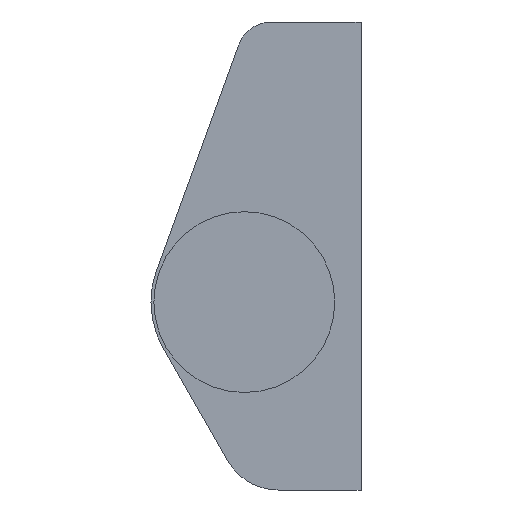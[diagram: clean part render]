
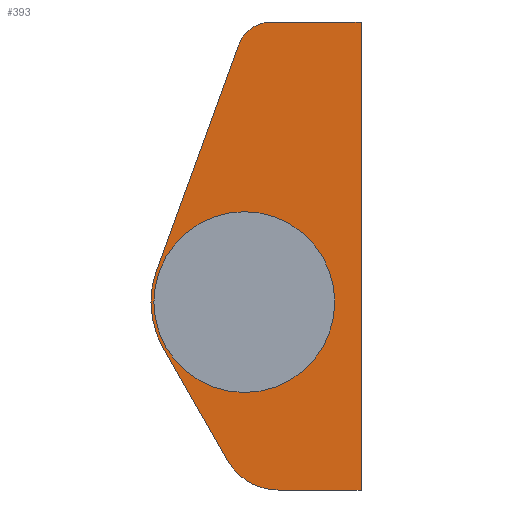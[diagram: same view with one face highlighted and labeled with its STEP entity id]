
A CAD part, front view. The second image highlights one B-rep face of the part: STEP entity #393.
In plain terms, the highlighted planar face has unit normal (0, -1, 0).
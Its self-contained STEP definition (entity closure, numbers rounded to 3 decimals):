
#21 = FACE_BOUND ( 'NONE', #131, .T. ) ;
#26 = FACE_OUTER_BOUND ( 'NONE', #119, .T. ) ;
#72 = ORIENTED_EDGE ( 'NONE', *, *, #495, .F. ) ;
#73 = ORIENTED_EDGE ( 'NONE', *, *, #470, .F. ) ;
#74 = ORIENTED_EDGE ( 'NONE', *, *, #464, .F. ) ;
#75 = ORIENTED_EDGE ( 'NONE', *, *, #417, .F. ) ;
#76 = ORIENTED_EDGE ( 'NONE', *, *, #488, .F. ) ;
#77 = ORIENTED_EDGE ( 'NONE', *, *, #448, .F. ) ;
#78 = ORIENTED_EDGE ( 'NONE', *, *, #472, .F. ) ;
#79 = ORIENTED_EDGE ( 'NONE', *, *, #447, .F. ) ;
#80 = ORIENTED_EDGE ( 'NONE', *, *, #438, .F. ) ;
#81 = ORIENTED_EDGE ( 'NONE', *, *, #460, .T. ) ;
#82 = ORIENTED_EDGE ( 'NONE', *, *, #475, .T. ) ;
#119 = EDGE_LOOP ( 'NONE', ( #72, #73, #74, #75, #76, #77, #78, #79, #80 ) ) ;
#131 = EDGE_LOOP ( 'NONE', ( #81, #82 ) ) ;
#137 = CIRCLE ( 'NONE', #437, 3. ) ;
#151 = LINE ( 'NONE', #385, #169 ) ;
#156 = CIRCLE ( 'NONE', #479, 5. ) ;
#157 = LINE ( 'NONE', #358, #158 ) ;
#158 = VECTOR ( 'NONE', #359, 1000. ) ;
#161 = CIRCLE ( 'NONE', #434, 8. ) ;
#162 = LINE ( 'NONE', #377, #172 ) ;
#169 = VECTOR ( 'NONE', #386, 1000. ) ;
#171 = CIRCLE ( 'NONE', #444, 6. ) ;
#172 = VECTOR ( 'NONE', #381, 1000. ) ;
#179 = CIRCLE ( 'NONE', #486, 8. ) ;
#181 = CIRCLE ( 'NONE', #480, 6. ) ;
#186 = LINE ( 'NONE', #507, #187 ) ;
#187 = VECTOR ( 'NONE', #508, 1000. ) ;
#189 = LINE ( 'NONE', #517, #190 ) ;
#190 = VECTOR ( 'NONE', #518, 1000. ) ;
#200 = DIRECTION ( 'NONE',  ( 1., 0., 0. ) ) ;
#202 = CARTESIAN_POINT ( 'NONE',  ( -7.518, 464., 2.736 ) ) ;
#203 = CARTESIAN_POINT ( 'NONE',  ( 10., 464., -16.1 ) ) ;
#204 = CARTESIAN_POINT ( 'NONE',  ( 2.899, 464., -16.1 ) ) ;
#205 = CARTESIAN_POINT ( 'NONE',  ( 10., 464., 24. ) ) ;
#206 = CARTESIAN_POINT ( 'NONE',  ( 2.322, 464., 24. ) ) ;
#207 = CARTESIAN_POINT ( 'NONE',  ( -0.497, 464., 22.026 ) ) ;
#208 = CARTESIAN_POINT ( 'NONE',  ( -6.942, 464., -3.975 ) ) ;
#209 = CARTESIAN_POINT ( 'NONE',  ( -1.44, 464., -13.584 ) ) ;
#212 = CARTESIAN_POINT ( 'NONE',  ( 6., 464., 0. ) ) ;
#213 = CARTESIAN_POINT ( 'NONE',  ( -6., 464., 0. ) ) ;
#216 = CARTESIAN_POINT ( 'NONE',  ( -8., 464., 0. ) ) ;
#222 = VERTEX_POINT ( 'NONE', #202 ) ;
#223 = VERTEX_POINT ( 'NONE', #216 ) ;
#226 = VERTEX_POINT ( 'NONE', #212 ) ;
#227 = VERTEX_POINT ( 'NONE', #213 ) ;
#229 = VERTEX_POINT ( 'NONE', #203 ) ;
#230 = VERTEX_POINT ( 'NONE', #204 ) ;
#231 = VERTEX_POINT ( 'NONE', #205 ) ;
#232 = VERTEX_POINT ( 'NONE', #206 ) ;
#233 = VERTEX_POINT ( 'NONE', #207 ) ;
#234 = VERTEX_POINT ( 'NONE', #208 ) ;
#235 = VERTEX_POINT ( 'NONE', #209 ) ;
#268 = CARTESIAN_POINT ( 'NONE',  ( 2.322, 464., 21. ) ) ;
#269 = PLANE ( 'NONE',  #433 ) ;
#270 = DIRECTION ( 'NONE',  ( 0., 1., 0. ) ) ;
#271 = DIRECTION ( 'NONE',  ( 1., 0., 0. ) ) ;
#308 = CARTESIAN_POINT ( 'NONE',  ( 2.322, 464., 21. ) ) ;
#323 = DIRECTION ( 'NONE',  ( 0., 1., 0. ) ) ;
#324 = DIRECTION ( 'NONE',  ( 1., 0., 0. ) ) ;
#347 = CARTESIAN_POINT ( 'NONE',  ( 2.899, 464., -11.1 ) ) ;
#354 = DIRECTION ( 'NONE',  ( 0., 1., 0. ) ) ;
#355 = DIRECTION ( 'NONE',  ( 1., 0., 0. ) ) ;
#356 = CARTESIAN_POINT ( 'NONE',  ( 0., 464., 0. ) ) ;
#358 = CARTESIAN_POINT ( 'NONE',  ( -6.942, 464., -3.975 ) ) ;
#359 = DIRECTION ( 'NONE',  ( -0.497, 0., 0.868 ) ) ;
#361 = DIRECTION ( 'NONE',  ( 0., 1., 0. ) ) ;
#362 = DIRECTION ( 'NONE',  ( 1., 0., 0. ) ) ;
#371 = CARTESIAN_POINT ( 'NONE',  ( 0., 464., 0. ) ) ;
#375 = DIRECTION ( 'NONE',  ( 0., 1., 0. ) ) ;
#376 = DIRECTION ( 'NONE',  ( 1., 0., 0. ) ) ;
#377 = CARTESIAN_POINT ( 'NONE',  ( 10., 464., 24. ) ) ;
#378 = CARTESIAN_POINT ( 'NONE',  ( 0., 464., 0. ) ) ;
#381 = DIRECTION ( 'NONE',  ( 1., 0., 0. ) ) ;
#382 = CARTESIAN_POINT ( 'NONE',  ( 0., 464., 0. ) ) ;
#385 = CARTESIAN_POINT ( 'NONE',  ( 10., 464., -16.1 ) ) ;
#386 = DIRECTION ( 'NONE',  ( 0., 0., -1. ) ) ;
#388 = DIRECTION ( 'NONE',  ( 0., 1., 0. ) ) ;
#393 = ADVANCED_FACE ( 'NONE', ( #26, #21 ), #269, .F. ) ;
#417 = EDGE_CURVE ( 'NONE', #233, #232, #137, .T. ) ;
#433 = AXIS2_PLACEMENT_3D ( 'NONE', #268, #270, #271 ) ;
#434 = AXIS2_PLACEMENT_3D ( 'NONE', #356, #361, #362 ) ;
#437 = AXIS2_PLACEMENT_3D ( 'NONE', #308, #323, #324 ) ;
#438 = EDGE_CURVE ( 'NONE', #230, #235, #156, .T. ) ;
#444 = AXIS2_PLACEMENT_3D ( 'NONE', #371, #375, #376 ) ;
#447 = EDGE_CURVE ( 'NONE', #235, #234, #157, .T. ) ;
#448 = EDGE_CURVE ( 'NONE', #223, #222, #161, .T. ) ;
#460 = EDGE_CURVE ( 'NONE', #226, #227, #171, .T. ) ;
#464 = EDGE_CURVE ( 'NONE', #232, #231, #162, .T. ) ;
#470 = EDGE_CURVE ( 'NONE', #231, #229, #151, .T. ) ;
#472 = EDGE_CURVE ( 'NONE', #234, #223, #179, .T. ) ;
#475 = EDGE_CURVE ( 'NONE', #227, #226, #181, .T. ) ;
#479 = AXIS2_PLACEMENT_3D ( 'NONE', #347, #354, #355 ) ;
#480 = AXIS2_PLACEMENT_3D ( 'NONE', #382, #498, #499 ) ;
#486 = AXIS2_PLACEMENT_3D ( 'NONE', #378, #388, #200 ) ;
#488 = EDGE_CURVE ( 'NONE', #222, #233, #186, .T. ) ;
#495 = EDGE_CURVE ( 'NONE', #229, #230, #189, .T. ) ;
#498 = DIRECTION ( 'NONE',  ( 0., 1., 0. ) ) ;
#499 = DIRECTION ( 'NONE',  ( 1., 0., 0. ) ) ;
#507 = CARTESIAN_POINT ( 'NONE',  ( -0.497, 464., 22.026 ) ) ;
#508 = DIRECTION ( 'NONE',  ( 0.342, 0., 0.94 ) ) ;
#517 = CARTESIAN_POINT ( 'NONE',  ( 2.899, 464., -16.1 ) ) ;
#518 = DIRECTION ( 'NONE',  ( -1., 0., 0. ) ) ;
